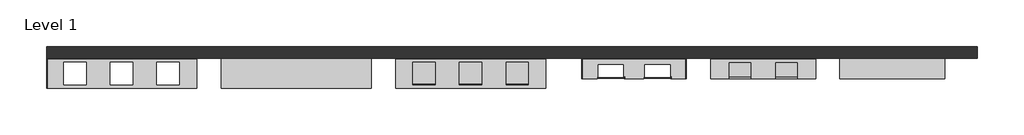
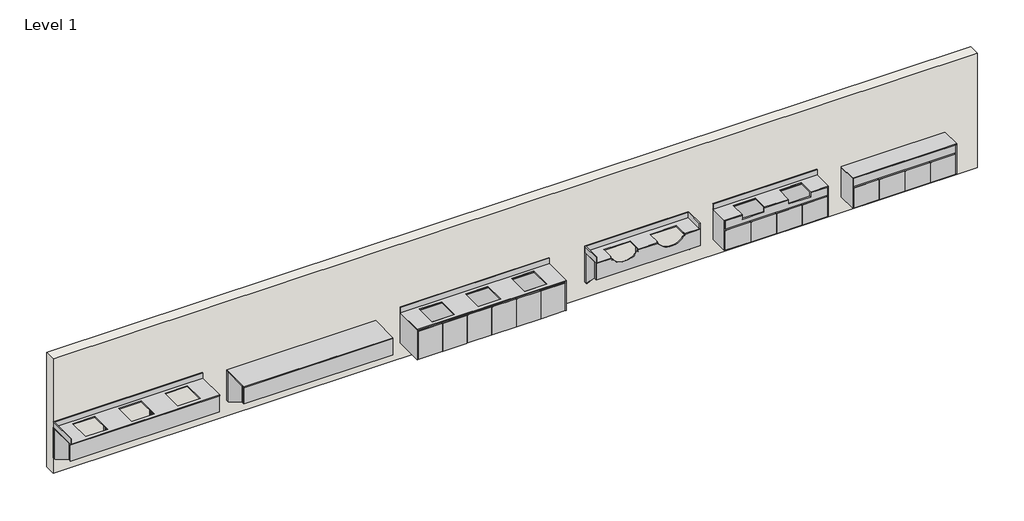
# One storey, incomplete: 45 furniture elements, 1 wall.
"""IFC4 building model written with IfcOpenShell, lengths in millimetres."""

from ifc_helpers import new_model, si_unit, origin, origin_with_axes, place, context, project, spatial, polyline, outline, extrude, transform, mapped, element, save
from components import furniture_397e107e, furniture_ad4c9fa9, furniture_7a1c18e0, furniture_59d763fb, furniture_3112df1e, furniture_7959323d, bracket_d3650df9, bracket_50fc7cdf, standard_98cf1e17, standard_f43d54f1, standard_7ffdd999, standard_b27cfdda, standard_6a04d5a4, standard_6c27929b, standard_95317439, standard_ffa01ccc, standard_4d3d5fd2, standard_a5373379, standard_955915dd, standard_19a560d1

model = new_model("IFC4")

# Units and contexts
model_context = context("Model", 3, world=origin())
ifc_project = project(units=[si_unit("LENGTHUNIT", "METRE", prefix="MILLI")], contexts=[model_context])

# Site, building, storey
site = spatial("IfcSite", under=ifc_project)
building = spatial("IfcBuilding", under=site)
storey = spatial("IfcBuildingStorey", under=building, Name="Level 1", Elevation=0.0)

# Furniture
placement = place(None, origin())
furniture_shape = furniture_397e107e(model_context)
element("IfcFurniture", 1, ObjectType="Vanity-Compact Laminate-Duracube-Cabinet Inset Basin 520 : Basins with Splashback", at=placement, inside=storey, context=model_context, shape_type="MappedRepresentation", body=[
    mapped(furniture_shape, transform((-4225.6588488, 1280.7140131, 0.0), x_axis=(1.0, 0.0, 0.0), y_axis=(0.0, 1.0, 0.0), z_axis=(0.0, 0.0, 1.0))),
])
furniture_2_shape = furniture_ad4c9fa9(model_context)
element("IfcFurniture", 2, ObjectType="Vanity-Compact Laminate-Duracube-Cabinet Semi Recessed Basin 350 : Basins with Splashback", at=placement, inside=storey, context=model_context, shape_type="MappedRepresentation", body=[
    mapped(furniture_2_shape, transform((1191.8236665, 1280.7140131, 0.0), x_axis=(1.0, 0.0, 0.0), y_axis=(0.0, 1.0, 0.0), z_axis=(0.0, 0.0, 1.0))),
])
furniture_3_shape = furniture_7a1c18e0(model_context)
element("IfcFurniture", 3, ObjectType="Vanity-Compact Laminate-Duracube-Cabinet Semi Recessed Basin 350 : No Basins no Splashback", at=placement, inside=storey, context=model_context, shape_type="MappedRepresentation", body=[
    mapped(furniture_3_shape, transform((3411.8236665, 1280.7140131, 0.0), x_axis=(1.0, 0.0, 0.0), y_axis=(0.0, 1.0, 0.0), z_axis=(0.0, 0.0, 1.0))),
])
furniture_4_shape = furniture_59d763fb(model_context)
element("IfcFurniture", 4, ObjectType="Vanity-Compact Laminate-Duracube-Inset Basin 520 : Basins with Splashback", at=placement, inside=storey, context=model_context, shape_type="MappedRepresentation", body=[
    mapped(furniture_4_shape, transform((-10225.6588488, 1280.7140131, 0.0), x_axis=(1.0, 0.0, 0.0), y_axis=(0.0, 1.0, 0.0), z_axis=(0.0, 0.0, 1.0))),
])
furniture_5_shape = furniture_3112df1e(model_context)
element("IfcFurniture", 5, ObjectType="Vanity-Compact Laminate-Duracube-Inset Basin 520 : No Basins no Splashback", at=placement, inside=storey, context=model_context, shape_type="MappedRepresentation", body=[
    mapped(furniture_5_shape, transform((-7225.6588488, 1280.7140131, 0.0), x_axis=(1.0, 0.0, 0.0), y_axis=(0.0, 1.0, 0.0), z_axis=(0.0, 0.0, 1.0))),
])
furniture_6_shape = furniture_7959323d(model_context)
element("IfcFurniture", 6, ObjectType="Vanity-Compact Laminate-Duracube-Semi Recessed Basin 350 : Basins with Splashback", at=placement, inside=storey, context=model_context, shape_type="MappedRepresentation", body=[
    mapped(furniture_6_shape, transform((-1028.1763335, 1280.7140131, 0.0), x_axis=(1.0, 0.0, 0.0), y_axis=(0.0, 1.0, 0.0), z_axis=(0.0, 0.0, 1.0))),
])
bracket_shape = bracket_d3650df9(model_context)
element("IfcFurniture", 7, ObjectType="X_Vanity-Bracket-Duracube-Bench Support : Bracket", at=placement, inside=storey, context=model_context, shape_type="MappedRepresentation", body=[
    mapped(bracket_shape, transform((-8535.6588488, 1280.7140131, 662.0), x_axis=(1.0, 0.0, 0.0), y_axis=(0.0, 0.0, 1.0), z_axis=(0.0, -1.0, 0.0))),
])
element("IfcFurniture", 8, ObjectType="X_Vanity-Bracket-Duracube-Bench Support : Bracket", at=placement, inside=storey, context=model_context, shape_type="MappedRepresentation", body=[
    mapped(bracket_shape, transform((-9335.6588488, 1280.7140131, 662.0), x_axis=(1.0, 0.0, 0.0), y_axis=(0.0, 0.0, 1.0), z_axis=(0.0, -1.0, 0.0))),
])
element("IfcFurniture", 9, ObjectType="X_Vanity-Bracket-Duracube-Bench Support : Bracket", at=placement, inside=storey, context=model_context, shape_type="MappedRepresentation", body=[
    mapped(bracket_shape, transform((-5535.6588488, 1280.7140131, 662.0), x_axis=(1.0, 0.0, 0.0), y_axis=(0.0, 0.0, 1.0), z_axis=(0.0, -1.0, 0.0))),
])
element("IfcFurniture", 10, ObjectType="X_Vanity-Bracket-Duracube-Bench Support : Bracket", at=placement, inside=storey, context=model_context, shape_type="MappedRepresentation", body=[
    mapped(bracket_shape, transform((-6335.6588488, 1280.7140131, 662.0), x_axis=(1.0, 0.0, 0.0), y_axis=(0.0, 0.0, 1.0), z_axis=(0.0, -1.0, 0.0))),
])
bracket_2_shape = bracket_50fc7cdf(model_context)
element("IfcFurniture", 11, ObjectType="X_Vanity-Bracket-Duracube-Bench Support : Bracket", at=placement, inside=storey, context=model_context, shape_type="MappedRepresentation", body=[
    mapped(bracket_2_shape, transform((-128.1763335, 1280.7140131, 662.0), x_axis=(1.0, 0.0, 0.0), y_axis=(0.0, 0.0, 1.0), z_axis=(0.0, -1.0, 0.0))),
])
standard_shape = standard_98cf1e17(model_context)
element("IfcFurniture", 12, ObjectType="X_Partition-Channel-Duracube-End : Standard", at=placement, inside=storey, context=model_context, shape_type="MappedRepresentation", body=[
    mapped(standard_shape, transform((-7662.1588488, 747.5136866, 0.0), x_axis=(0.0, 1.0, 0.0), y_axis=(-1.0, 0.0, 0.0), z_axis=(0.0, 0.0, 1.0))),
])
element("IfcFurniture", 13, ObjectType="X_Partition-Channel-Duracube-End : Standard", at=placement, inside=storey, context=model_context, shape_type="MappedRepresentation", body=[
    mapped(standard_shape, transform((-10222.1588488, 747.5136866, 0.0), x_axis=(0.0, 1.0, 0.0), y_axis=(-1.0, 0.0, 0.0), z_axis=(0.0, 0.0, 1.0))),
])
element("IfcFurniture", 14, ObjectType="X_Partition-Channel-Duracube-End : Standard", at=placement, inside=storey, context=model_context, shape_type="MappedRepresentation", body=[
    mapped(standard_shape, transform((755.3236665, 917.5136866, 0.0), x_axis=(0.0, 1.0, 0.0), y_axis=(-1.0, 0.0, 0.0), z_axis=(0.0, 0.0, 1.0))),
])
element("IfcFurniture", 15, ObjectType="X_Partition-Channel-Duracube-End : Standard", at=placement, inside=storey, context=model_context, shape_type="MappedRepresentation", body=[
    mapped(standard_shape, transform((-1024.6763335, 917.5136866, 0.0), x_axis=(0.0, 1.0, 0.0), y_axis=(-1.0, 0.0, 0.0), z_axis=(0.0, 0.0, 1.0))),
])
element("IfcFurniture", 16, ObjectType="X_Partition-Channel-Duracube-End : Standard", at=placement, inside=storey, context=model_context, shape_type="MappedRepresentation", body=[
    mapped(standard_shape, transform((-4662.1588488, 747.5136866, 0.0), x_axis=(0.0, 1.0, 0.0), y_axis=(-1.0, 0.0, 0.0), z_axis=(0.0, 0.0, 1.0))),
])
element("IfcFurniture", 17, ObjectType="X_Partition-Channel-Duracube-End : Standard", at=placement, inside=storey, context=model_context, shape_type="MappedRepresentation", body=[
    mapped(standard_shape, transform((-7222.1588488, 747.5136866, 0.0), x_axis=(0.0, 1.0, 0.0), y_axis=(-1.0, 0.0, 0.0), z_axis=(0.0, 0.0, 1.0))),
])
standard_2_shape = standard_f43d54f1(model_context)
element("IfcFurniture", 18, ObjectType="X_Partition-Channel-Duracube-End : Standard", at=placement, inside=storey, context=model_context, shape_type="MappedRepresentation", body=[
    mapped(standard_2_shape, transform((-7649.1588488, 1310.4143395, 0.0), x_axis=(0.0, -1.0, 0.0), y_axis=(1.0, 0.0, 0.0), z_axis=(0.0, 0.0, 1.0))),
])
element("IfcFurniture", 19, ObjectType="X_Partition-Channel-Duracube-End : Standard", at=placement, inside=storey, context=model_context, shape_type="MappedRepresentation", body=[
    mapped(standard_2_shape, transform((-10209.1588488, 1310.4143395, 0.0), x_axis=(0.0, -1.0, 0.0), y_axis=(1.0, 0.0, 0.0), z_axis=(0.0, 0.0, 1.0))),
])
element("IfcFurniture", 20, ObjectType="X_Partition-Channel-Duracube-End : Standard", at=placement, inside=storey, context=model_context, shape_type="MappedRepresentation", body=[
    mapped(standard_2_shape, transform((768.3236665, 1310.4143395, 0.0), x_axis=(0.0, -1.0, 0.0), y_axis=(1.0, 0.0, 0.0), z_axis=(0.0, 0.0, 1.0))),
])
element("IfcFurniture", 21, ObjectType="X_Partition-Channel-Duracube-End : Standard", at=placement, inside=storey, context=model_context, shape_type="MappedRepresentation", body=[
    mapped(standard_2_shape, transform((-1011.6763335, 1310.4143395, 0.0), x_axis=(0.0, -1.0, 0.0), y_axis=(1.0, 0.0, 0.0), z_axis=(0.0, 0.0, 1.0))),
])
element("IfcFurniture", 22, ObjectType="X_Partition-Channel-Duracube-End : Standard", at=placement, inside=storey, context=model_context, shape_type="MappedRepresentation", body=[
    mapped(standard_2_shape, transform((-4649.1588488, 1310.4143395, 0.0), x_axis=(0.0, -1.0, 0.0), y_axis=(1.0, 0.0, 0.0), z_axis=(0.0, 0.0, 1.0))),
])
element("IfcFurniture", 23, ObjectType="X_Partition-Channel-Duracube-End : Standard", at=placement, inside=storey, context=model_context, shape_type="MappedRepresentation", body=[
    mapped(standard_2_shape, transform((-7209.1588488, 1310.4143395, 0.0), x_axis=(0.0, -1.0, 0.0), y_axis=(1.0, 0.0, 0.0), z_axis=(0.0, 0.0, 1.0))),
])
standard_3_shape = standard_7ffdd999(model_context)
element("IfcFurniture", 24, ObjectType="X_Vanity-Angle-Duracube-Bench Support : Standard", at=placement, inside=storey, context=model_context, shape_type="MappedRepresentation", body=[
    mapped(standard_3_shape, transform((-8980.3591753, 1280.7140131, 797.0), x_axis=(1.0, 0.0, 0.0), y_axis=(0.0, 1.0, 0.0), z_axis=(0.0, 0.0, 1.0))),
])
element("IfcFurniture", 25, ObjectType="X_Vanity-Angle-Duracube-Bench Support : Standard", at=placement, inside=storey, context=model_context, shape_type="MappedRepresentation", body=[
    mapped(standard_3_shape, transform((-5980.3591753, 1280.7140131, 797.0), x_axis=(1.0, 0.0, 0.0), y_axis=(0.0, 1.0, 0.0), z_axis=(0.0, 0.0, 1.0))),
])
standard_4_shape = standard_b27cfdda(model_context)
element("IfcFurniture", 26, ObjectType="X_Vanity-Angle-Duracube-Bench Support : Standard", at=placement, inside=storey, context=model_context, shape_type="MappedRepresentation", body=[
    mapped(standard_4_shape, transform((-10209.1588488, 974.2636866, 797.0), x_axis=(0.0, 1.0, 0.0), y_axis=(-1.0, 0.0, 0.0), z_axis=(0.0, 0.0, 1.0))),
])
element("IfcFurniture", 27, ObjectType="X_Vanity-Angle-Duracube-Bench Support : Standard", at=placement, inside=storey, context=model_context, shape_type="MappedRepresentation", body=[
    mapped(standard_4_shape, transform((-7209.1588488, 974.2636866, 797.0), x_axis=(0.0, 1.0, 0.0), y_axis=(-1.0, 0.0, 0.0), z_axis=(0.0, 0.0, 1.0))),
])
standard_5_shape = standard_6a04d5a4(model_context)
element("IfcFurniture", 28, ObjectType="X_Vanity-Angle-Duracube-Bench Support : Standard", at=placement, inside=storey, context=model_context, shape_type="MappedRepresentation", body=[
    mapped(standard_5_shape, transform((-7662.1588488, 974.2636866, 797.0), x_axis=(0.0, 1.0, 0.0), y_axis=(-1.0, 0.0, 0.0), z_axis=(0.0, 0.0, 1.0))),
])
element("IfcFurniture", 29, ObjectType="X_Vanity-Angle-Duracube-Bench Support : Standard", at=placement, inside=storey, context=model_context, shape_type="MappedRepresentation", body=[
    mapped(standard_5_shape, transform((-4662.1588488, 974.2636866, 797.0), x_axis=(0.0, 1.0, 0.0), y_axis=(-1.0, 0.0, 0.0), z_axis=(0.0, 0.0, 1.0))),
])
standard_6_shape = standard_6c27929b(model_context)
element("IfcFurniture", 30, ObjectType="X_Vanity-Angle-Duracube-Bench Support : Standard", at=placement, inside=storey, context=model_context, shape_type="MappedRepresentation", body=[
    mapped(standard_6_shape, transform((-172.8766599, 1280.7140131, 797.0), x_axis=(1.0, 0.0, 0.0), y_axis=(0.0, 1.0, 0.0), z_axis=(0.0, 0.0, 1.0))),
])
standard_7_shape = standard_95317439(model_context)
element("IfcFurniture", 31, ObjectType="X_Vanity-Angle-Duracube-Bench Support : Standard", at=placement, inside=storey, context=model_context, shape_type="MappedRepresentation", body=[
    mapped(standard_7_shape, transform((-1011.6763335, 1059.2636866, 797.0), x_axis=(0.0, 1.0, 0.0), y_axis=(-1.0, 0.0, 0.0), z_axis=(0.0, 0.0, 1.0))),
])
standard_8_shape = standard_ffa01ccc(model_context)
element("IfcFurniture", 32, ObjectType="X_Vanity-Angle-Duracube-Bench Support : Standard", at=placement, inside=storey, context=model_context, shape_type="MappedRepresentation", body=[
    mapped(standard_8_shape, transform((755.3236665, 1059.2636866, 797.0), x_axis=(0.0, 1.0, 0.0), y_axis=(-1.0, 0.0, 0.0), z_axis=(0.0, 0.0, 1.0))),
])
standard_9_shape = standard_4d3d5fd2(model_context)
element("IfcFurniture", 33, ObjectType="X_Partition-Compact Laminate-Duracube-Vanity Door : Standard", at=placement, inside=storey, context=model_context, shape_type="MappedRepresentation", body=[
    mapped(standard_9_shape, transform((-2980.3591753, 773.7140131, 0.0), x_axis=(1.0, 0.0, 0.0), y_axis=(0.0, 1.0, 0.0), z_axis=(0.0, 0.0, 1.0))),
])
element("IfcFurniture", 34, ObjectType="X_Partition-Compact Laminate-Duracube-Vanity Door : Standard", at=placement, inside=storey, context=model_context, shape_type="MappedRepresentation", body=[
    mapped(standard_9_shape, transform((-2129.0258419, 773.7140131, 0.0), x_axis=(1.0, 0.0, 0.0), y_axis=(0.0, 1.0, 0.0), z_axis=(0.0, 0.0, 1.0))),
])
element("IfcFurniture", 35, ObjectType="X_Partition-Compact Laminate-Duracube-Vanity Door : Standard", at=placement, inside=storey, context=model_context, shape_type="MappedRepresentation", body=[
    mapped(standard_9_shape, transform((-3831.6925086, 773.7140131, 0.0), x_axis=(1.0, 0.0, 0.0), y_axis=(0.0, 1.0, 0.0), z_axis=(0.0, 0.0, 1.0))),
])
standard_10_shape = standard_a5373379(model_context)
element("IfcFurniture", 36, ObjectType="X_Partition-Compact Laminate-Duracube-Vanity Door : Standard", at=placement, inside=storey, context=model_context, shape_type="MappedRepresentation", body=[
    mapped(standard_10_shape, transform((2490.6233401, 943.7140131, 0.0), x_axis=(1.0, 0.0, 0.0), y_axis=(0.0, 1.0, 0.0), z_axis=(0.0, 0.0, 1.0))),
])
element("IfcFurniture", 37, ObjectType="X_Partition-Compact Laminate-Duracube-Vanity Door : Standard", at=placement, inside=storey, context=model_context, shape_type="MappedRepresentation", body=[
    mapped(standard_10_shape, transform((1603.6233401, 943.7140131, 0.0), x_axis=(1.0, 0.0, 0.0), y_axis=(0.0, 1.0, 0.0), z_axis=(0.0, 0.0, 1.0))),
])
element("IfcFurniture", 38, ObjectType="X_Partition-Compact Laminate-Duracube-Vanity Door : Standard", at=placement, inside=storey, context=model_context, shape_type="MappedRepresentation", body=[
    mapped(standard_10_shape, transform((4710.6233401, 943.7140131, 0.0), x_axis=(1.0, 0.0, 0.0), y_axis=(0.0, 1.0, 0.0), z_axis=(0.0, 0.0, 1.0))),
])
element("IfcFurniture", 39, ObjectType="X_Partition-Compact Laminate-Duracube-Vanity Door : Standard", at=placement, inside=storey, context=model_context, shape_type="MappedRepresentation", body=[
    mapped(standard_10_shape, transform((3823.6233401, 943.7140131, 0.0), x_axis=(1.0, 0.0, 0.0), y_axis=(0.0, 1.0, 0.0), z_axis=(0.0, 0.0, 1.0))),
])
standard_11_shape = standard_955915dd(model_context)
element("IfcFurniture", 40, ObjectType="X_Partition-Compact Laminate-Duracube-Vanity End Panel : Standard", at=placement, inside=storey, context=model_context, shape_type="MappedRepresentation", body=[
    mapped(standard_11_shape, transform((-7662.1588488, 984.2636866, 0.0), x_axis=(0.0, 1.0, 0.0), y_axis=(-1.0, 0.0, 0.0), z_axis=(0.0, 0.0, 1.0))),
])
element("IfcFurniture", 41, ObjectType="X_Partition-Compact Laminate-Duracube-Vanity End Panel : Standard", at=placement, inside=storey, context=model_context, shape_type="MappedRepresentation", body=[
    mapped(standard_11_shape, transform((-10222.1588488, 984.2636866, 0.0), x_axis=(0.0, 1.0, 0.0), y_axis=(-1.0, 0.0, 0.0), z_axis=(0.0, 0.0, 1.0))),
])
element("IfcFurniture", 42, ObjectType="X_Partition-Compact Laminate-Duracube-Vanity End Panel : Standard", at=placement, inside=storey, context=model_context, shape_type="MappedRepresentation", body=[
    mapped(standard_11_shape, transform((-4662.1588488, 984.2636866, 0.0), x_axis=(0.0, 1.0, 0.0), y_axis=(-1.0, 0.0, 0.0), z_axis=(0.0, 0.0, 1.0))),
])
element("IfcFurniture", 43, ObjectType="X_Partition-Compact Laminate-Duracube-Vanity End Panel : Standard", at=placement, inside=storey, context=model_context, shape_type="MappedRepresentation", body=[
    mapped(standard_11_shape, transform((-7222.1588488, 984.2636866, 0.0), x_axis=(0.0, 1.0, 0.0), y_axis=(-1.0, 0.0, 0.0), z_axis=(0.0, 0.0, 1.0))),
])
standard_12_shape = standard_19a560d1(model_context)
element("IfcFurniture", 44, ObjectType="X_Partition-Compact Laminate-Duracube-Vanity End Panel : Standard", at=placement, inside=storey, context=model_context, shape_type="MappedRepresentation", body=[
    mapped(standard_12_shape, transform((755.3236665, 1069.2636866, 0.0), x_axis=(0.0, 1.0, 0.0), y_axis=(-1.0, 0.0, 0.0), z_axis=(0.0, 0.0, 1.0))),
])
element("IfcFurniture", 45, ObjectType="X_Partition-Compact Laminate-Duracube-Vanity End Panel : Standard", at=placement, inside=storey, context=model_context, shape_type="MappedRepresentation", body=[
    mapped(standard_12_shape, transform((-1024.6763335, 1069.2636866, 0.0), x_axis=(0.0, 1.0, 0.0), y_axis=(-1.0, 0.0, 0.0), z_axis=(0.0, 0.0, 1.0))),
])

# Wall
element("IfcWall", 46, ObjectType="Generic - 200mm", at=placement, inside=storey, context=model_context, shape_type="SweptSolid", body=[
    extrude(outline(polyline([(5774.3411512, 1280.7140131), (-10225.6588488, 1280.7140131), (-10225.6588488, 1480.7140131), (5774.3411512, 1480.7140131), (5774.3411512, 1280.7140131)])), origin_with_axes(), (0.0, 0.0, 1.0), 2100.0),
])

save(model, "model.ifc")
